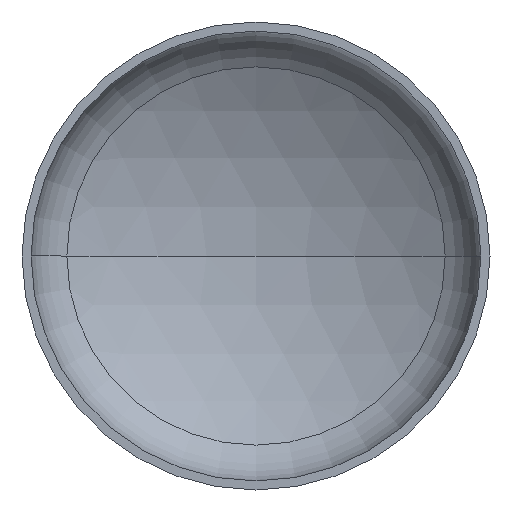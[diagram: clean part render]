
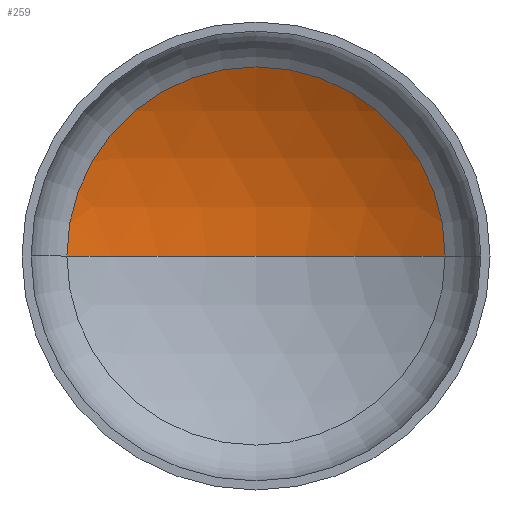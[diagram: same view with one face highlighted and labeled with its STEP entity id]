
A CAD part, front view. The second image highlights one B-rep face of the part: STEP entity #259.
In plain terms, the highlighted spherical face has radius 2720 mm.
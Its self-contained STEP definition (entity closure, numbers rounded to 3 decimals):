
#15 = AXIS2_PLACEMENT_3D ( 'NONE', #48, #246, #40 ) ;
#21 = EDGE_LOOP ( 'NONE', ( #135, #103, #31 ) ) ;
#26 = DIRECTION ( 'NONE',  ( 1., 0., 0. ) ) ;
#31 = ORIENTED_EDGE ( 'NONE', *, *, #91, .T. ) ;
#33 = DIRECTION ( 'NONE',  ( 0., 0., 1. ) ) ;
#40 = DIRECTION ( 'NONE',  ( -1., 0., 0. ) ) ;
#46 = AXIS2_PLACEMENT_3D ( 'NONE', #385, #33, #26 ) ;
#48 = CARTESIAN_POINT ( 'NONE',  ( 0., -1774.24, 0. ) ) ;
#49 = AXIS2_PLACEMENT_3D ( 'NONE', #366, #233, #387 ) ;
#50 = AXIS2_PLACEMENT_3D ( 'NONE', #218, #220, #199 ) ;
#91 = EDGE_CURVE ( 'NONE', #138, #111, #298, .T. ) ;
#94 = EDGE_CURVE ( 'NONE', #136, #138, #167, .T. ) ;
#98 = EDGE_CURVE ( 'NONE', #136, #111, #406, .T. ) ;
#100 = CARTESIAN_POINT ( 'NONE',  ( -1374.251, 573.064, 0. ) ) ;
#103 = ORIENTED_EDGE ( 'NONE', *, *, #94, .T. ) ;
#111 = VERTEX_POINT ( 'NONE', #100 ) ;
#135 = ORIENTED_EDGE ( 'NONE', *, *, #98, .F. ) ;
#136 = VERTEX_POINT ( 'NONE', #341 ) ;
#138 = VERTEX_POINT ( 'NONE', #320 ) ;
#153 = FACE_OUTER_BOUND ( 'NONE', #21, .T. ) ;
#167 = CIRCLE ( 'NONE', #49, 2720. ) ;
#199 = DIRECTION ( 'NONE',  ( 1., 0., 0. ) ) ;
#218 = CARTESIAN_POINT ( 'NONE',  ( 0., 573.064, 0. ) ) ;
#220 = DIRECTION ( 'NONE',  ( 0., -1., 0. ) ) ;
#233 = DIRECTION ( 'NONE',  ( 0., 0., -1. ) ) ;
#246 = DIRECTION ( 'NONE',  ( 0., 0., -1. ) ) ;
#259 = ADVANCED_FACE ( 'NONE', ( #153 ), #335, .F. ) ;
#298 = CIRCLE ( 'NONE', #50, 1374.251 ) ;
#320 = CARTESIAN_POINT ( 'NONE',  ( 1374.251, 573.064, 0. ) ) ;
#335 = SPHERICAL_SURFACE ( 'NONE', #15, 2720. ) ;
#341 = CARTESIAN_POINT ( 'NONE',  ( 0., 945.76, 0. ) ) ;
#366 = CARTESIAN_POINT ( 'NONE',  ( 0., -1774.24, 0. ) ) ;
#385 = CARTESIAN_POINT ( 'NONE',  ( 0., -1774.24, 0. ) ) ;
#387 = DIRECTION ( 'NONE',  ( -1., 0., 0. ) ) ;
#406 = CIRCLE ( 'NONE', #46, 2720. ) ;
